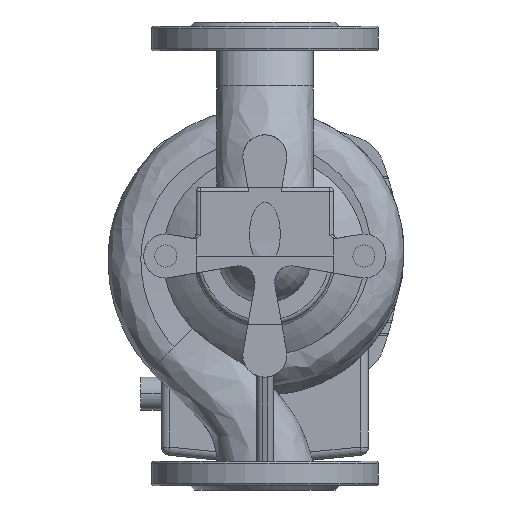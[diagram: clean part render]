
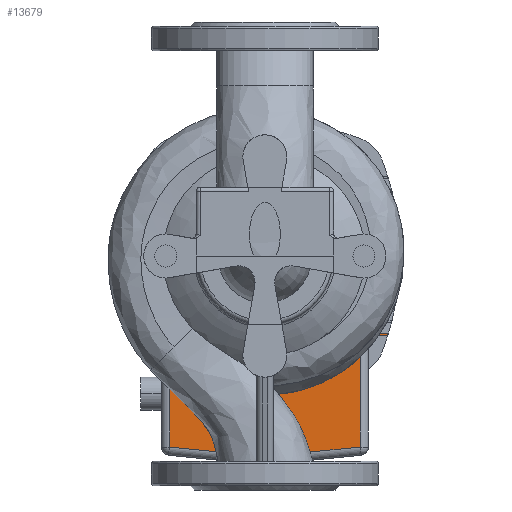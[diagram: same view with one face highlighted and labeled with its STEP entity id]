
A CAD part, front view. The second image highlights one B-rep face of the part: STEP entity #13679.
In plain terms, the highlighted planar face has unit normal (0, -1, 0) as drawn and (0, 0, 1) by its records, which use the part's own axes.
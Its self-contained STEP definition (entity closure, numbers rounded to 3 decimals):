
#54 = EDGE_CURVE ( 'NONE', #17543, #6142, #18495, .T. ) ;
#818 = FACE_OUTER_BOUND ( 'NONE', #23142, .T. ) ;
#1181 = DIRECTION ( 'NONE',  ( 0., 0., 1. ) ) ;
#1712 = DIRECTION ( 'NONE',  ( 1., 0., 0. ) ) ;
#1735 = EDGE_CURVE ( 'NONE', #18662, #24843, #2089, .T. ) ;
#2089 = CIRCLE ( 'NONE', #14349, 462. ) ;
#2577 = CARTESIAN_POINT ( 'NONE',  ( -61.937, 56., -106. ) ) ;
#2641 = DIRECTION ( 'NONE',  ( 0., 0., 1. ) ) ;
#2880 = ORIENTED_EDGE ( 'NONE', *, *, #14501, .F. ) ;
#3389 = AXIS2_PLACEMENT_3D ( 'NONE', #16407, #18390, #18646 ) ;
#3730 = VERTEX_POINT ( 'NONE', #10306 ) ;
#3825 = ORIENTED_EDGE ( 'NONE', *, *, #20128, .T. ) ;
#4059 = CARTESIAN_POINT ( 'NONE',  ( -98., 58., -106. ) ) ;
#4393 = PLANE ( 'NONE',  #19692 ) ;
#4518 = VERTEX_POINT ( 'NONE', #17602 ) ;
#4775 = CARTESIAN_POINT ( 'NONE',  ( 56., 98., -106. ) ) ;
#5248 = VERTEX_POINT ( 'NONE', #15966 ) ;
#5733 = CARTESIAN_POINT ( 'NONE',  ( -69.25, 98., -106. ) ) ;
#6142 = VERTEX_POINT ( 'NONE', #19174 ) ;
#6266 = ORIENTED_EDGE ( 'NONE', *, *, #10825, .T. ) ;
#6506 = DIRECTION ( 'NONE',  ( 0., 0., 1. ) ) ;
#6648 = VECTOR ( 'NONE', #11281, 1000. ) ;
#7047 = VERTEX_POINT ( 'NONE', #2577 ) ;
#7259 = DIRECTION ( 'NONE',  ( 1., 0., 0. ) ) ;
#7476 = DIRECTION ( 'NONE',  ( 0., -1., 0. ) ) ;
#7618 = EDGE_CURVE ( 'NONE', #25945, #6142, #11472, .T. ) ;
#7732 = LINE ( 'NONE', #5733, #22799 ) ;
#8333 = DIRECTION ( 'NONE',  ( 1., 0., 0. ) ) ;
#9733 = CARTESIAN_POINT ( 'NONE',  ( 69.25, 98., -106. ) ) ;
#10242 = CARTESIAN_POINT ( 'NONE',  ( -98., 58., -106. ) ) ;
#10269 = CARTESIAN_POINT ( 'NONE',  ( 69.25, 138.781, -106. ) ) ;
#10306 = CARTESIAN_POINT ( 'NONE',  ( -89.83, 56., -106. ) ) ;
#10825 = EDGE_CURVE ( 'NONE', #17543, #18662, #15053, .T. ) ;
#11281 = DIRECTION ( 'NONE',  ( 1., 0., 0. ) ) ;
#11460 = DIRECTION ( 'NONE',  ( 0., 1., 0. ) ) ;
#11472 = CIRCLE ( 'NONE', #14005, 196. ) ;
#11761 = LINE ( 'NONE', #19845, #11814 ) ;
#11814 = VECTOR ( 'NONE', #1712, 1000. ) ;
#12981 = DIRECTION ( 'NONE',  ( 0., -1., 0. ) ) ;
#13269 = DIRECTION ( 'NONE',  ( 0., 0., 1. ) ) ;
#13511 = ORIENTED_EDGE ( 'NONE', *, *, #1735, .T. ) ;
#13650 = ORIENTED_EDGE ( 'NONE', *, *, #21510, .T. ) ;
#13679 = ADVANCED_FACE ( 'NONE', ( #818 ), #4393, .T. ) ;
#13749 = VERTEX_POINT ( 'NONE', #20534 ) ;
#14005 = AXIS2_PLACEMENT_3D ( 'NONE', #19309, #1181, #7259 ) ;
#14081 = LINE ( 'NONE', #10242, #23123 ) ;
#14349 = AXIS2_PLACEMENT_3D ( 'NONE', #21092, #13269, #21347 ) ;
#14501 = EDGE_CURVE ( 'NONE', #13749, #5248, #14081, .T. ) ;
#14519 = DIRECTION ( 'NONE',  ( 1., 0., 0. ) ) ;
#14759 = EDGE_CURVE ( 'NONE', #4518, #25945, #23725, .T. ) ;
#15053 = LINE ( 'NONE', #9733, #23785 ) ;
#15542 = CARTESIAN_POINT ( 'NONE',  ( 89.83, 56., -106. ) ) ;
#15966 = CARTESIAN_POINT ( 'NONE',  ( -69.25, 58., -106. ) ) ;
#16018 = CARTESIAN_POINT ( 'NONE',  ( -69.25, 138.781, -106. ) ) ;
#16054 = CIRCLE ( 'NONE', #3389, 83.5 ) ;
#16407 = CARTESIAN_POINT ( 'NONE',  ( 0., 0., -106. ) ) ;
#16541 = CIRCLE ( 'NONE', #24564, 196. ) ;
#17197 = ORIENTED_EDGE ( 'NONE', *, *, #20057, .T. ) ;
#17525 = ORIENTED_EDGE ( 'NONE', *, *, #7618, .T. ) ;
#17543 = VERTEX_POINT ( 'NONE', #24759 ) ;
#17602 = CARTESIAN_POINT ( 'NONE',  ( 61.937, 56., -106. ) ) ;
#17639 = CARTESIAN_POINT ( 'NONE',  ( -98., 56., -106. ) ) ;
#17854 = ORIENTED_EDGE ( 'NONE', *, *, #54, .F. ) ;
#18328 = DIRECTION ( 'NONE',  ( 1., 0., 0. ) ) ;
#18390 = DIRECTION ( 'NONE',  ( 0., 0., -1. ) ) ;
#18495 = LINE ( 'NONE', #4059, #23432 ) ;
#18646 = DIRECTION ( 'NONE',  ( 1., 0., 0. ) ) ;
#18662 = VERTEX_POINT ( 'NONE', #10269 ) ;
#18948 = EDGE_CURVE ( 'NONE', #24843, #5248, #7732, .T. ) ;
#19003 = ORIENTED_EDGE ( 'NONE', *, *, #18948, .T. ) ;
#19174 = CARTESIAN_POINT ( 'NONE',  ( 89.222, 58., -106. ) ) ;
#19309 = CARTESIAN_POINT ( 'NONE',  ( -98., 0., -106. ) ) ;
#19692 = AXIS2_PLACEMENT_3D ( 'NONE', #4775, #6506, #12981 ) ;
#19845 = CARTESIAN_POINT ( 'NONE',  ( -98., 56., -106. ) ) ;
#20057 = EDGE_CURVE ( 'NONE', #3730, #7047, #11761, .T. ) ;
#20128 = EDGE_CURVE ( 'NONE', #7047, #4518, #16054, .T. ) ;
#20534 = CARTESIAN_POINT ( 'NONE',  ( -89.222, 58., -106. ) ) ;
#20642 = CARTESIAN_POINT ( 'NONE',  ( 98., 0., -106. ) ) ;
#21092 = CARTESIAN_POINT ( 'NONE',  ( 0., -318., -106. ) ) ;
#21347 = DIRECTION ( 'NONE',  ( 0., -1., 0. ) ) ;
#21510 = EDGE_CURVE ( 'NONE', #13749, #3730, #16541, .T. ) ;
#22799 = VECTOR ( 'NONE', #7476, 1000. ) ;
#23123 = VECTOR ( 'NONE', #18328, 1000. ) ;
#23142 = EDGE_LOOP ( 'NONE', ( #17854, #6266, #13511, #19003, #2880, #13650, #17197, #3825, #25265, #17525 ) ) ;
#23432 = VECTOR ( 'NONE', #14519, 1000. ) ;
#23725 = LINE ( 'NONE', #17639, #6648 ) ;
#23785 = VECTOR ( 'NONE', #11460, 1000. ) ;
#24564 = AXIS2_PLACEMENT_3D ( 'NONE', #20642, #2641, #8333 ) ;
#24759 = CARTESIAN_POINT ( 'NONE',  ( 69.25, 58., -106. ) ) ;
#24843 = VERTEX_POINT ( 'NONE', #16018 ) ;
#25265 = ORIENTED_EDGE ( 'NONE', *, *, #14759, .T. ) ;
#25945 = VERTEX_POINT ( 'NONE', #15542 ) ;
